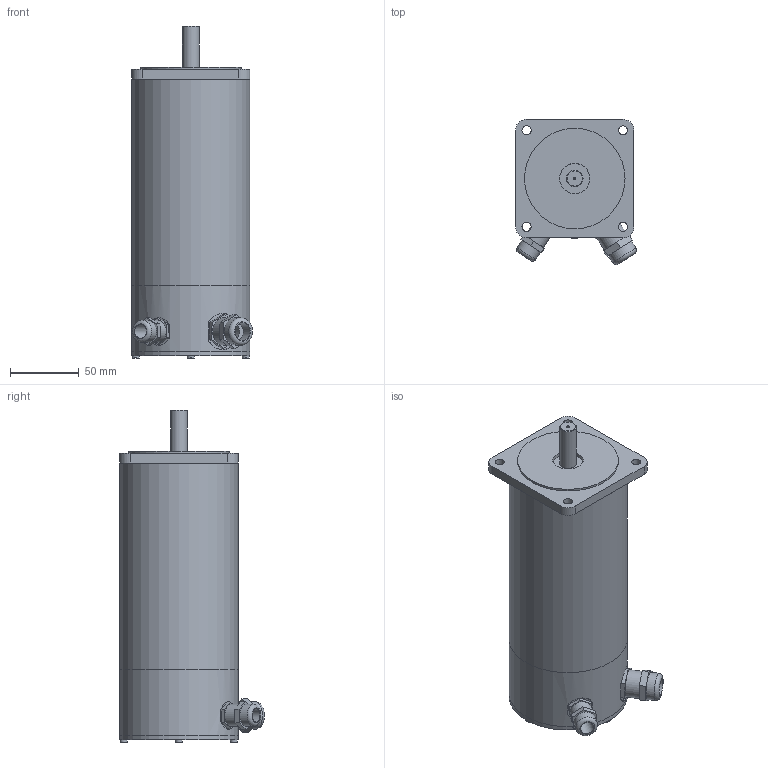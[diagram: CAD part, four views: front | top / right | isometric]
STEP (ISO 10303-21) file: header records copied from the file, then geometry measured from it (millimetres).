
FILE_DESCRIPTION((''),'2;1');
FILE_NAME('C:\Users\Reinhard\Documents\Inventor\Testschrittmotor\SM88\SM88.4-H200-KV.stp','2012-11-12T21:00:11',('Reinhard'),(''),'Autodesk Inventor 2012','Autodesk Inventor 2012','');
FILE_SCHEMA(('CONFIG_CONTROL_DESIGN'));
Length unit declared in the file: millimetre
Products named in the file (1): SM88
Bounding box: 87.8 x 105.15 x 241 mm (x, y, z)
Volume: 212717.9 mm3; surface area: 140477.5 mm2
Topology: 2 solids, 2 shells, 125 faces, 281 edges, 185 vertices
Faces by surface type: plane 79, cylinder 42, torus 2, cone 2
Full cylindrical faces by diameter (mm): 2 x1, 5 x4, 6.6 x4, 10 x1, 12 x3, 13 x2, 15 x1, 16 x2, 18.376 x1, 20 x3, 22 x1, 73 x1, 78 x2, 82 x1, 86 x3
Entity records: 3404 total; most frequent: CARTESIAN_POINT 674, DIRECTION 568, ORIENTED_EDGE 476, EDGE_CURVE 238, AXIS2_PLACEMENT_3D 218, EDGE_LOOP 198, VERTEX_POINT 176, VECTOR 132
